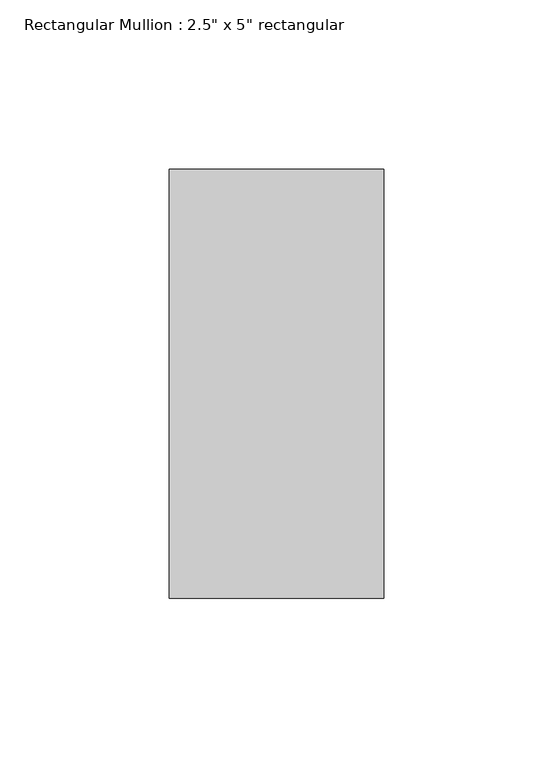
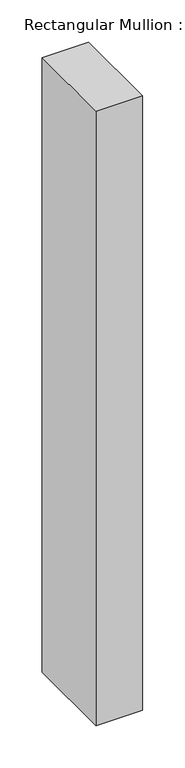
"""IFC4 building model written with IfcOpenShell, lengths in millimetres: member geometry."""

from ifc_helpers import new_model, si_unit, frame, origin, place, context, project, spatial, polyline, outline, extrude, source, transform, mapped, element, save


def member_c4e8739b(model_context):
    return source(origin(), model_context, "Body", "SweptSolid", [
        extrude(outline(polyline([(0.0, 63.5), (0.0, -63.5), (-63.5, -63.5), (-63.5, 63.5), (0.0, 63.5)])), frame((0.0, 0.0, -884.7838063), z_axis=(0.0, 0.0, 1.0), x_axis=(1.0, 0.0, 0.0)), (0.0, 0.0, 1.0), 884.7838063),
    ])


if __name__ == "__main__":
    model = new_model("IFC4")
    model_context = context("Model", 3, world=origin())
    ifc_project = project(units=[si_unit("LENGTHUNIT", "METRE", prefix="MILLI")], contexts=[model_context])
    site = spatial("IfcSite", under=ifc_project)
    building = spatial("IfcBuilding", under=site)
    placement = place(None, origin())
    member_shape = member_c4e8739b(model_context)
    element("IfcMember", 1, ObjectType="Rectangular Mullion : 2.5\" x 5\" rectangular", at=placement, inside=building, context=model_context, shape_type="MappedRepresentation", body=[
        mapped(member_shape, transform((0.0, 0.0, 0.0), x_axis=(1.0, 0.0, 0.0), y_axis=(0.0, 1.0, 0.0), z_axis=(0.0, 0.0, 1.0))),
    ])
    save(model, "model.ifc")
